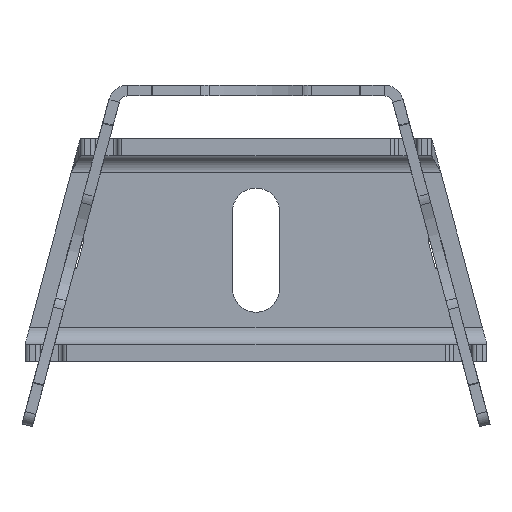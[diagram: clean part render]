
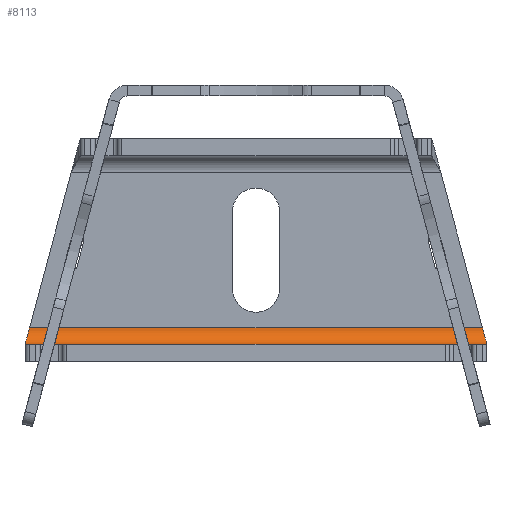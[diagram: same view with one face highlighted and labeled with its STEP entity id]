
A CAD part, front view. The second image highlights one B-rep face of the part: STEP entity #8113.
In plain terms, the highlighted cylindrical face has radius 3.9 mm (diameter 7.8 mm), a partial arc.
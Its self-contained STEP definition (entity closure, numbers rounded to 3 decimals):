
#497 = CARTESIAN_POINT ( 'NONE',  ( 18.1, 0., 52.866 ) ) ;
#1729 = ORIENTED_EDGE ( 'NONE', *, *, #8630, .T. ) ;
#1730 = ORIENTED_EDGE ( 'NONE', *, *, #8745, .F. ) ;
#1745 = ORIENTED_EDGE ( 'NONE', *, *, #8664, .F. ) ;
#1746 = ORIENTED_EDGE ( 'NONE', *, *, #8746, .T. ) ;
#4997 =( BOUNDED_CURVE ( )  B_SPLINE_CURVE ( 3, ( #11674, #11675, #11685, #11686 ),
 .UNSPECIFIED., .F., .F. ) 
 B_SPLINE_CURVE_WITH_KNOTS ( ( 4, 4 ),
 ( 1.571, 3.142 ),
 .UNSPECIFIED. ) 
 CURVE ( )  GEOMETRIC_REPRESENTATION_ITEM ( )  RATIONAL_B_SPLINE_CURVE ( ( 1., 0.805, 0.805, 1. ) ) 
 REPRESENTATION_ITEM ( '' )  );
#4998 =( BOUNDED_CURVE ( )  B_SPLINE_CURVE ( 3, ( #11688, #11687, #11679, #11689 ),
 .UNSPECIFIED., .F., .F. ) 
 B_SPLINE_CURVE_WITH_KNOTS ( ( 4, 4 ),
 ( 4.712, 6.283 ),
 .UNSPECIFIED. ) 
 CURVE ( )  GEOMETRIC_REPRESENTATION_ITEM ( )  RATIONAL_B_SPLINE_CURVE ( ( 1., 0.805, 0.805, 1. ) ) 
 REPRESENTATION_ITEM ( '' )  );
#6070 = FACE_OUTER_BOUND ( 'NONE', #11618, .T. ) ;
#6075 = CYLINDRICAL_SURFACE ( 'NONE', #6567, 3.9 ) ;
#6567 = AXIS2_PLACEMENT_3D ( 'NONE', #7009, #7010, #7008 ) ;
#7008 = DIRECTION ( 'NONE',  ( -1., 0., 0. ) ) ;
#7009 = CARTESIAN_POINT ( 'NONE',  ( 18.1, -3.9, 55. ) ) ;
#7010 = DIRECTION ( 'NONE',  ( 0., 0., -1. ) ) ;
#7401 = VERTEX_POINT ( 'NONE', #497 ) ;
#8113 = ADVANCED_FACE ( 'NONE', ( #6070 ), #6075, .F. ) ;
#8630 = EDGE_CURVE ( 'NONE', #7401, #9040, #9943, .T. ) ;
#8664 = EDGE_CURVE ( 'NONE', #9022, #9008, #9992, .T. ) ;
#8745 = EDGE_CURVE ( 'NONE', #7401, #9022, #4997, .T. ) ;
#8746 = EDGE_CURVE ( 'NONE', #9040, #9008, #4998, .T. ) ;
#9008 = VERTEX_POINT ( 'NONE', #12270 ) ;
#9022 = VERTEX_POINT ( 'NONE', #12284 ) ;
#9040 = VERTEX_POINT ( 'NONE', #12302 ) ;
#9943 = LINE ( 'NONE', #11042, #9946 ) ;
#9946 = VECTOR ( 'NONE', #11044, 1000. ) ;
#9992 = LINE ( 'NONE', #11123, #9998 ) ;
#9998 = VECTOR ( 'NONE', #11128, 1000. ) ;
#11042 = CARTESIAN_POINT ( 'NONE',  ( 18.1, 0., 55. ) ) ;
#11044 = DIRECTION ( 'NONE',  ( 0., 0., -1. ) ) ;
#11123 = CARTESIAN_POINT ( 'NONE',  ( 22., -3.9, 55. ) ) ;
#11128 = DIRECTION ( 'NONE',  ( 0., 0., -1. ) ) ;
#11618 = EDGE_LOOP ( 'NONE', ( #1730, #1729, #1746, #1745 ) ) ;
#11674 = CARTESIAN_POINT ( 'NONE',  ( 18.1, 0., 52.866 ) ) ;
#11675 = CARTESIAN_POINT ( 'NONE',  ( 20.385, 0., 53.478 ) ) ;
#11679 = CARTESIAN_POINT ( 'NONE',  ( 22., -1.615, -53.911 ) ) ;
#11685 = CARTESIAN_POINT ( 'NONE',  ( 22., -1.615, 53.911 ) ) ;
#11686 = CARTESIAN_POINT ( 'NONE',  ( 22., -3.9, 53.911 ) ) ;
#11687 = CARTESIAN_POINT ( 'NONE',  ( 20.385, 0., -53.478 ) ) ;
#11688 = CARTESIAN_POINT ( 'NONE',  ( 18.1, 0., -52.866 ) ) ;
#11689 = CARTESIAN_POINT ( 'NONE',  ( 22., -3.9, -53.911 ) ) ;
#12270 = CARTESIAN_POINT ( 'NONE',  ( 22., -3.9, -53.911 ) ) ;
#12284 = CARTESIAN_POINT ( 'NONE',  ( 22., -3.9, 53.911 ) ) ;
#12302 = CARTESIAN_POINT ( 'NONE',  ( 18.1, 0., -52.866 ) ) ;
